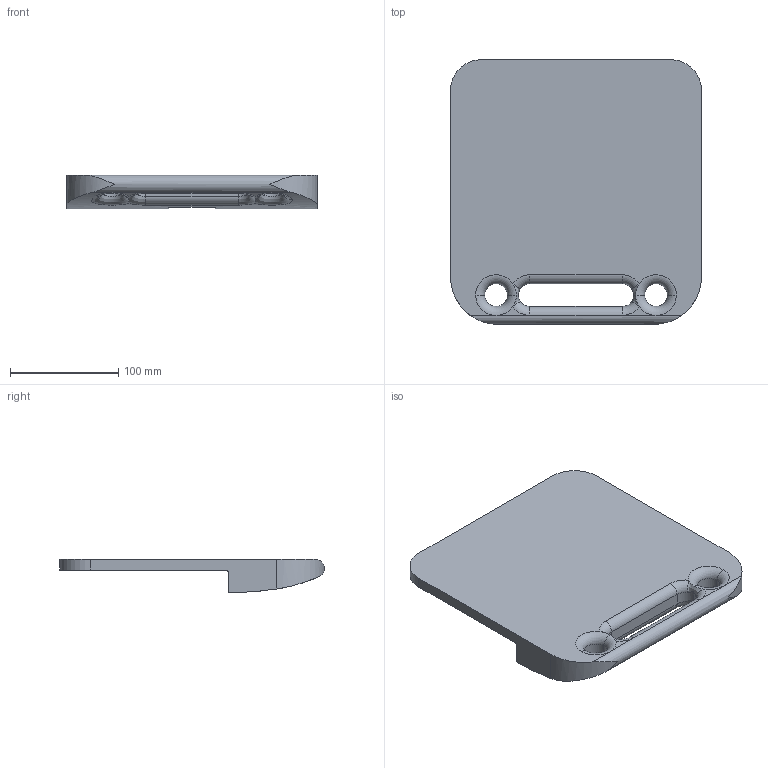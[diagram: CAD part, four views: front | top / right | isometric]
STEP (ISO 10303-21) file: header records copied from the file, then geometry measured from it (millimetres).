
FILE_DESCRIPTION (( 'STEP AP214' ), '1' );
FILE_NAME ('xo_keyboard_handle.STEP', '2009-11-01T02:39:34', ( '' ), ( '' ), 'SwSTEP 2.0', 'SolidWorks 2009', '' );
FILE_SCHEMA (( 'AUTOMOTIVE_DESIGN' ));
Length unit declared in the file: millimetre
Products named in the file (1): xo_keyboard_handle
Bounding box: 231.78 x 244.47 x 30.79 mm (x, y, z)
Volume: 766169.2 mm3; surface area: 128461.1 mm2
Topology: 1 solids, 1 shells, 63 faces, 171 edges, 106 vertices
Faces by surface type: cylinder 29, plane 15, bspline 11, torus 8
Entity records: 3980 total; most frequent: CARTESIAN_POINT 2279, ORIENTED_EDGE 342, DIRECTION 309, EDGE_CURVE 171, AXIS2_PLACEMENT_3D 125, VERTEX_POINT 106, CIRCLE 72, EDGE_LOOP 65
